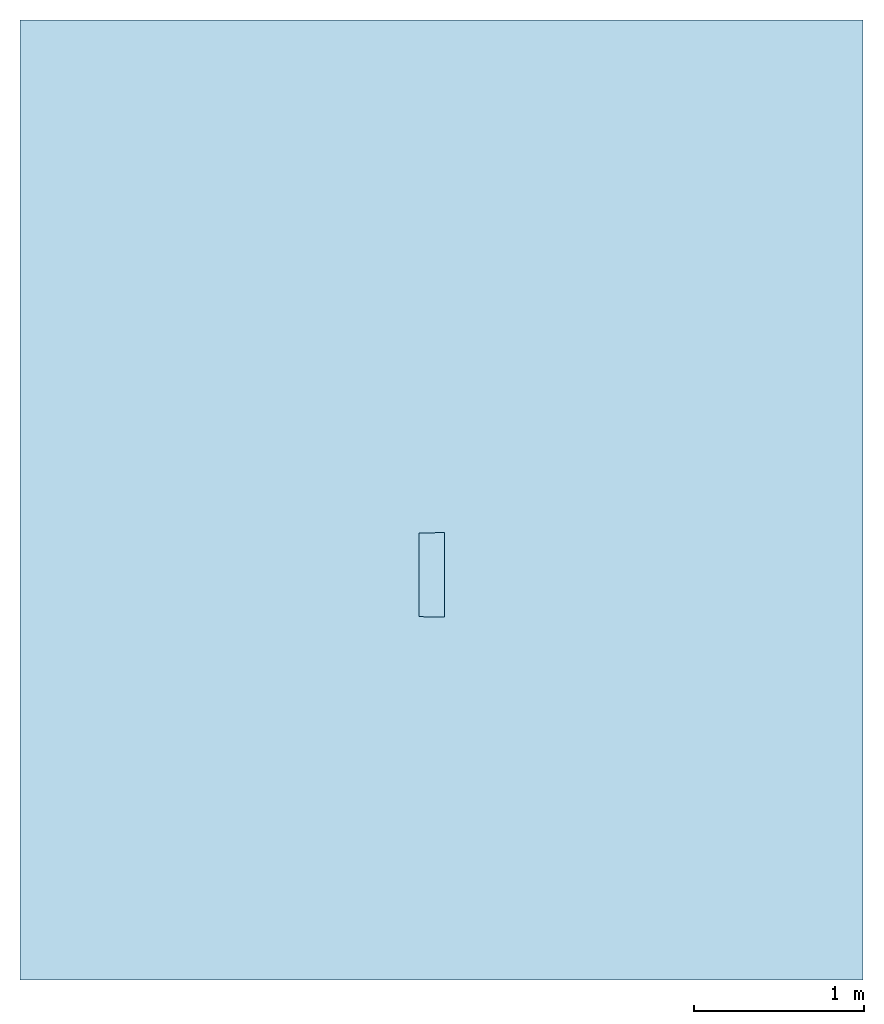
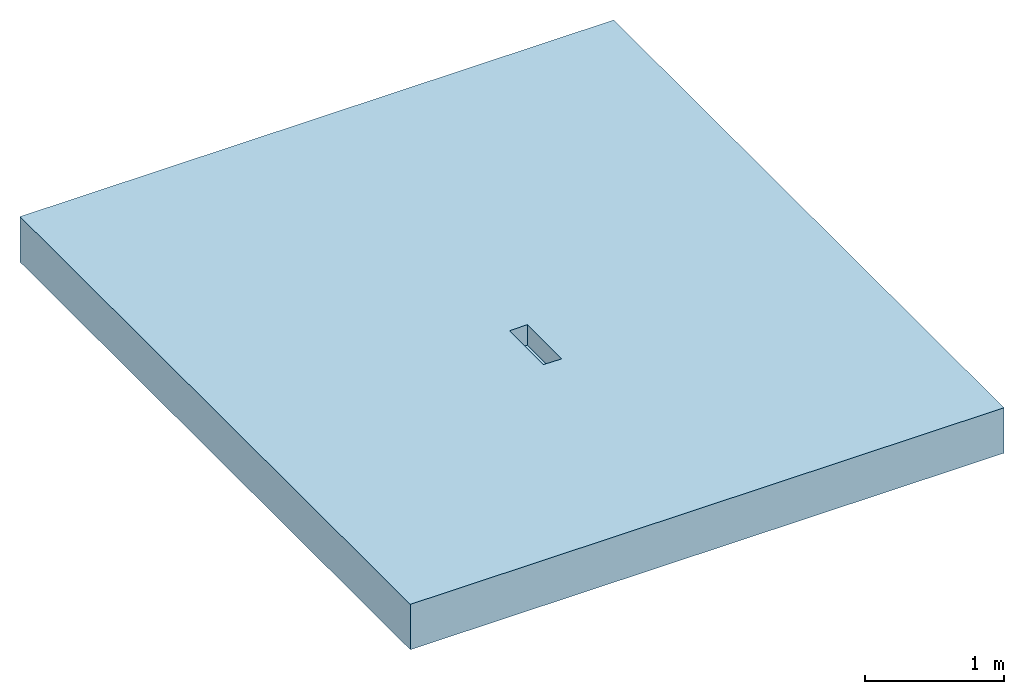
# One storey: 1 slab, 8 openings.
"""IFC2X3 building model written with IfcOpenShell, lengths in millimetres."""

from ifc_helpers import new_model, entity, si_unit, converted_unit, direction, frame, frame_2d, origin, origin_2d_with_axis, place, context, subcontext, project, spatial, polyline, circle_curve, parameter, trimmed, segment, composite_curve, rectangle, outline, extrude, material, layer, layer_set, layer_usage, element, save


model = new_model("IFC2X3")

# Units and contexts
model_context = context("Model", 3, precision=1e-06, world=origin(), true_north=direction((2.0, 6.12303176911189e-17, 1.0)))
context_of_model = context(None, 3, precision=1e-06, world=origin(), true_north=direction((2.0, 6.12303176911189e-17, 1.0)))
body_context = subcontext(model_context, "Body", "Model", "MODEL_VIEW")
ifc_project = project(units=[si_unit("LENGTHUNIT", "METRE", prefix="MILLI"), si_unit("AREAUNIT", "SQUARE_METRE", prefix="MILLI"), si_unit("VOLUMEUNIT", "CUBIC_METRE", prefix="MILLI"), converted_unit("PLANEANGLEUNIT", "DEGREE", entity("IfcRatioMeasure", 0.0174532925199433), si_unit("PLANEANGLEUNIT", "RADIAN"), dimensions=[0, 0, 0, 0, 0, 0, 0]), si_unit("TIMEUNIT", "SECOND")], contexts=[model_context, context_of_model])

# Site, building, storey
site_placement = place(None, origin())
site = spatial("IfcSite", under=ifc_project, at=site_placement, Name="Default", CompositionType="ELEMENT")
building_placement = place(site_placement, origin())
building = spatial("IfcBuilding", under=site, at=building_placement, CompositionType="ELEMENT")
storey_placement = place(building_placement, origin())
storey = spatial("IfcBuildingStorey", under=building, at=storey_placement, Name="Level 1", CompositionType="ELEMENT", Elevation=0.0)

# Slab, openings
ifc_material = material(Name="Default Floor")
ifc_layer = layer(ifc_material, 400.0)
ifc_layer_set = layer_set([ifc_layer], Name="Floor:Generic Floor - 400mm")
ifc_layer_usage = layer_usage(ifc_layer_set, "AXIS3", "POSITIVE", 0.0)
slab_placement = place(storey_placement, frame((-6426.51252910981, -8304.1683846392, -400.0)))
slab = element("IfcSlab", 1, at=slab_placement, inside=storey, material=ifc_layer_usage, Name="Floor:Generic Floor - 400mm", ObjectType="Floor:Generic Floor - 400mm", PredefinedType="FLOOR", context=body_context, shape_type="SweptSolid", body=[
    extrude(rectangle(XDim=5632.29114211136, YDim=4946.28644627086, at=frame_2d((0.0, 0.0), x_axis=(0.0, -1.0))), frame((2473.14322313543, 2816.14557105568, 400.0), z_axis=(0.0, 0.0, -1.0), x_axis=(-1.0, 0.0, 0.0)), (0.0, 0.0, 1.0), 400.0),
])
opening_1_placement = place(slab_placement, origin())
element("IfcOpeningElement", 2, at=opening_1_placement, cuts=slab, ObjectType="Recess", context=body_context, shape_type="SweptSolid", body=[
    extrude(outline(polyline([(0.345136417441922, -99.5859028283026), (250.059069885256, -99.5859028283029), (748.457483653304, -69.1913565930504), (732.85134429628, 81.6537526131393), (490.588397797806, 61.9859364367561), (4.67362464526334, 52.1541665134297), (-241.186092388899, 62.6944521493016), (-730.579325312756, 113.956421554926), (-752.634468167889, -36.3625203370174), (-502.575170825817, -67.7190466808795), (0.345136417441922, -99.5859028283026)])), frame((2389.94728480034, 2876.28426448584, -2670.0), z_axis=(0.0, 0.0, 1.0), x_axis=(0.0217915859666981, -0.999762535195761, 0.0)), (0.0, 0.0, 1.0), 9.99999999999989),
])
opening_2_placement = place(slab_placement, origin())
element("IfcOpeningElement", 3, at=opening_2_placement, cuts=slab, ObjectType="Recess", context=body_context, shape_type="SweptSolid", body=[
    extrude(outline(composite_curve([segment(polyline([(-203.334382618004, -101.667191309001), (101.667191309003, -101.667191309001)]), True, "CONTINUOUS"), segment(polyline([(101.667191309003, -101.667191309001), (101.667191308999, 203.334382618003)]), True, "CONTINUOUS"), segment(trimmed(circle_curve(frame_2d((101.667191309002, -101.667191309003), x_axis=(0.0, -1.0)), 305.001573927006), [parameter(180.0)], [parameter(270.0)], True, "PARAMETER"), True, "CONTINUOUS")], self_intersect=False)), frame((2364.69423813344, 2228.51570532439, -2220.70000000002), z_axis=(0.0, 0.0, 1.0), x_axis=(0.0, -1.0, 0.0)), (0.0, 0.0, 1.0), 19.9999999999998),
])
opening_3_placement = place(slab_placement, origin())
element("IfcOpeningElement", 4, at=opening_3_placement, cuts=slab, ObjectType="Recess", context=body_context, shape_type="SweptSolid", body=[
    extrude(rectangle(XDim=500.0, YDim=150.000000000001, at=origin_2d_with_axis()), frame((2415.52547370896, 2376.83592772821, -7105.0), z_axis=(0.0, 0.0, 1.0), x_axis=(0.0, -1.0, 0.0)), (0.0, 0.0, 1.0), 4.99999999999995),
])
opening_4_placement = place(slab_placement, origin())
element("IfcOpeningElement", 5, at=opening_4_placement, cuts=slab, ObjectType="Recess", context=body_context, shape_type="SweptSolid", body=[
    extrude(outline(composite_curve([segment(polyline([(-241.75000000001, -74.9390970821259), (241.749999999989, -74.9390970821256)]), True, "CONTINUOUS"), segment(polyline([(241.749999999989, -74.9390970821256), (247.79374999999, 74.9390970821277)]), True, "CONTINUOUS"), segment(trimmed(circle_curve(frame_2d((0.0, -6070.06686365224), x_axis=(0.0, 1.0)), 6150.0), [parameter(357.690832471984)], [parameter(2.30916752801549)], True, "PARAMETER"), True, "CONTINUOUS"), segment(polyline([(-247.79375000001, 74.939097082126), (-241.75000000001, -74.9390970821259)]), True, "CONTINUOUS")], self_intersect=False)), frame((2412.96900980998, 2368.59858677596, -5605.0), z_axis=(0.0, 0.0, 1.0), x_axis=(0.0, -1.0, 0.0)), (0.0, 0.0, 1.0), 4.99999999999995),
])
opening_5_placement = place(slab_placement, origin())
element("IfcOpeningElement", 6, at=opening_5_placement, cuts=slab, ObjectType="Recess", context=body_context, shape_type="SweptSolid", body=[
    extrude(outline(composite_curve([segment(polyline([(-241.54885459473, -74.9381948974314), (241.548854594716, -74.9381948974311)]), True, "CONTINUOUS"), segment(polyline([(241.548854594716, -74.9381948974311), (247.592531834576, 74.9381948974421)]), True, "CONTINUOUS"), segment(trimmed(circle_curve(frame_2d((0.0, -6065.07778192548), x_axis=(0.0, 1.0)), 6145.00596073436), [parameter(357.690832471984)], [parameter(2.30916752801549)], True, "PARAMETER"), True, "CONTINUOUS"), segment(polyline([(-247.592531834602, 74.9381948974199), (-241.54885459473, -74.9381948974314)]), True, "CONTINUOUS")], self_intersect=False)), frame((2413.03048175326, 2374.42845956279, -4105.0), z_axis=(0.0, 0.0, 1.0), x_axis=(0.0, -1.0, 0.0)), (0.0, 0.0, 1.0), 4.99999999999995),
])
opening_6_placement = place(slab_placement, origin())
element("IfcOpeningElement", 7, at=opening_6_placement, cuts=slab, ObjectType="Recess", context=body_context, shape_type="SweptSolid", body=[
    extrude(outline(composite_curve([segment(polyline([(-215.49776955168, -74.4605683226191), (215.497769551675, -74.4605683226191)]), True, "CONTINUOUS"), segment(polyline([(215.497769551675, -74.4605683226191), (233.455917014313, 74.460568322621)]), True, "CONTINUOUS"), segment(trimmed(circle_curve(frame_2d((0.0, -1861.5142080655), x_axis=(0.0, 1.0)), 1950.0), [parameter(353.124)], [parameter(6.876)], True, "PARAMETER"), True, "CONTINUOUS"), segment(polyline([(-233.455917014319, 74.4605683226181), (-215.49776955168, -74.4605683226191)]), True, "CONTINUOUS")], self_intersect=False)), frame((2410.05674518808, 2360.29426106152, -4405.0), z_axis=(0.0, 0.0, 1.0), x_axis=(0.0, -1.0, 0.0)), (0.0, 0.0, 1.0), 4.99999999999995),
])
opening_7_placement = place(slab_placement, origin())
element("IfcOpeningElement", 8, at=opening_7_placement, cuts=slab, ObjectType="Recess", context=body_context, shape_type="SweptSolid", body=[
    extrude(outline(polyline([(-69.2644805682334, -246.682856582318), (80.776347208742, -246.682856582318), (69.182836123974, 250.181904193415), (-80.6947027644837, 243.183808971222), (-69.2644805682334, -246.682856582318)])), frame((2415.52547370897, 2376.83592772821, 220.0), z_axis=(0.0, 0.0, 1.0), x_axis=(0.999727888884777, -0.02332698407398, 0.0)), (0.0, 0.0, 1.0), 180.000000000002),
])
opening_8_placement = place(slab_placement, origin())
element("IfcOpeningElement", 9, at=opening_8_placement, cuts=slab, ObjectType="Recess", context=body_context, shape_type="SweptSolid", body=[
    extrude(outline(polyline([(272.202200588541, -95.5390299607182), (521.683473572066, -95.5390299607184), (1019.62012351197, -65.197585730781), (1004.17745936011, 84.0055760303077), (761.738883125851, 64.2965097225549), (275.468102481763, 54.425051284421), (59.1788935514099, 63.1504408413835), (-156.649754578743, 79.6709528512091), (-155.978519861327, 111.966971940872), (-458.913098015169, 118.263110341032), (-458.958799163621, 116.064229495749), (-459.28512945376, 116.111951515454), (-459.611447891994, 116.159690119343), (-481.386446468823, -32.2573193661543), (-395.505718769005, -44.2061420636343), (-309.479906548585, -54.941338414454), (-312.242271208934, -187.850706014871), (-162.274658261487, -190.967606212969), (-159.774989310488, -70.6976707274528), (55.9916033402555, -86.9180556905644), (272.202200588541, -95.5390299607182)])), frame((2449.22714058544, 2590.10736887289, -2610.0), z_axis=(0.0, 0.0, 1.0), x_axis=(-0.0207793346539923, 0.999784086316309, 0.0)), (0.0, 0.0, 1.0), 9.99999999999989),
])

save(model, "model.ifc")
